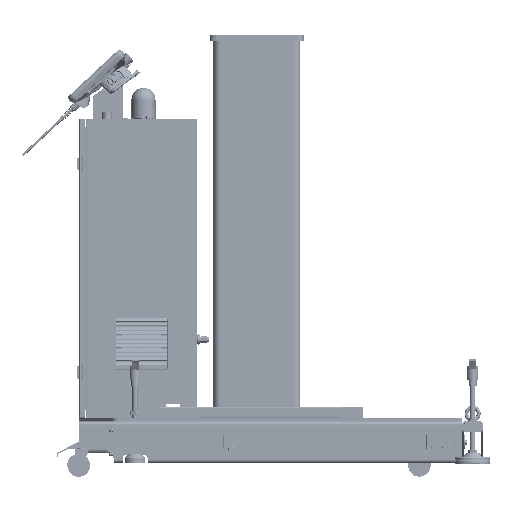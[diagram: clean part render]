
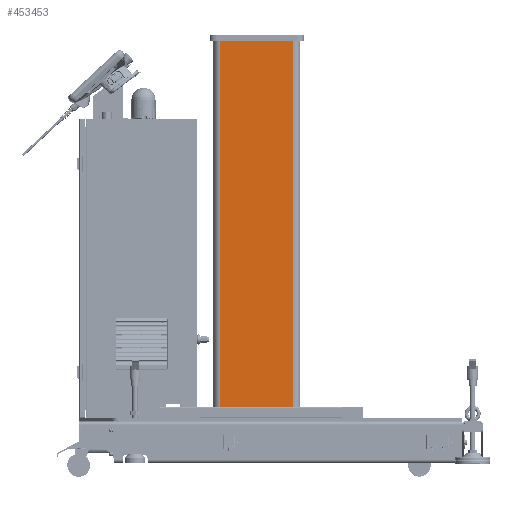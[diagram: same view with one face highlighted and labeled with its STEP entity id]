
A CAD part, top view. The second image highlights one B-rep face of the part: STEP entity #453453.
In plain terms, the highlighted planar face has unit normal (0, 0, 1).
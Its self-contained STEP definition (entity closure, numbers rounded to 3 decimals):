
#11191 = VERTEX_POINT ( 'NONE', #540803 ) ;
#30349 = CARTESIAN_POINT ( 'NONE',  ( -195., 18., 125. ) ) ;
#51979 = DIRECTION ( 'NONE',  ( 0., -1., 0. ) ) ;
#74636 = DIRECTION ( 'NONE',  ( 0., -1., 0. ) ) ;
#76505 = VERTEX_POINT ( 'NONE', #118051 ) ;
#109625 = ORIENTED_EDGE ( 'NONE', *, *, #334743, .F. ) ;
#118051 = CARTESIAN_POINT ( 'NONE',  ( -195., 1092., 125. ) ) ;
#120006 = EDGE_CURVE ( 'NONE', #373715, #11191, #340196, .T. ) ;
#138897 = EDGE_CURVE ( 'NONE', #429589, #11191, #279060, .T. ) ;
#138931 = CARTESIAN_POINT ( 'NONE',  ( 15., 1092., 125. ) ) ;
#165919 = VECTOR ( 'NONE', #74636, 1000. ) ;
#175560 = VECTOR ( 'NONE', #488043, 1000. ) ;
#206903 = EDGE_LOOP ( 'NONE', ( #336713, #347757, #109625, #317057 ) ) ;
#220981 = EDGE_CURVE ( 'NONE', #76505, #373715, #287506, .T. ) ;
#221646 = VECTOR ( 'NONE', #51979, 1000. ) ;
#279060 = LINE ( 'NONE', #561454, #221646 ) ;
#287506 = LINE ( 'NONE', #400295, #165919 ) ;
#288207 = FACE_OUTER_BOUND ( 'NONE', #206903, .T. ) ;
#317057 = ORIENTED_EDGE ( 'NONE', *, *, #220981, .T. ) ;
#330414 = DIRECTION ( 'NONE',  ( 1., 0., 0. ) ) ;
#334743 = EDGE_CURVE ( 'NONE', #76505, #429589, #584845, .T. ) ;
#336713 = ORIENTED_EDGE ( 'NONE', *, *, #120006, .T. ) ;
#340196 = LINE ( 'NONE', #30349, #175560 ) ;
#347757 = ORIENTED_EDGE ( 'NONE', *, *, #138897, .F. ) ;
#373715 = VERTEX_POINT ( 'NONE', #417677 ) ;
#374385 = CARTESIAN_POINT ( 'NONE',  ( -195., 1092., 125. ) ) ;
#386962 = CARTESIAN_POINT ( 'NONE',  ( -195., 1092., 125. ) ) ;
#400295 = CARTESIAN_POINT ( 'NONE',  ( -195., 1092., 125. ) ) ;
#417677 = CARTESIAN_POINT ( 'NONE',  ( -195., 18., 125. ) ) ;
#426862 = DIRECTION ( 'NONE',  ( 0., 0., -1. ) ) ;
#429589 = VERTEX_POINT ( 'NONE', #138931 ) ;
#453453 = ADVANCED_FACE ( 'NONE', ( #288207 ), #472864, .F. ) ;
#463310 = VECTOR ( 'NONE', #330414, 1000. ) ;
#472864 = PLANE ( 'NONE',  #583489 ) ;
#488043 = DIRECTION ( 'NONE',  ( 1., 0., 0. ) ) ;
#524656 = DIRECTION ( 'NONE',  ( 0., -1., 0. ) ) ;
#540803 = CARTESIAN_POINT ( 'NONE',  ( 15., 18., 125. ) ) ;
#561454 = CARTESIAN_POINT ( 'NONE',  ( 15., 1092., 125. ) ) ;
#583489 = AXIS2_PLACEMENT_3D ( 'NONE', #386962, #426862, #524656 ) ;
#584845 = LINE ( 'NONE', #374385, #463310 ) ;
